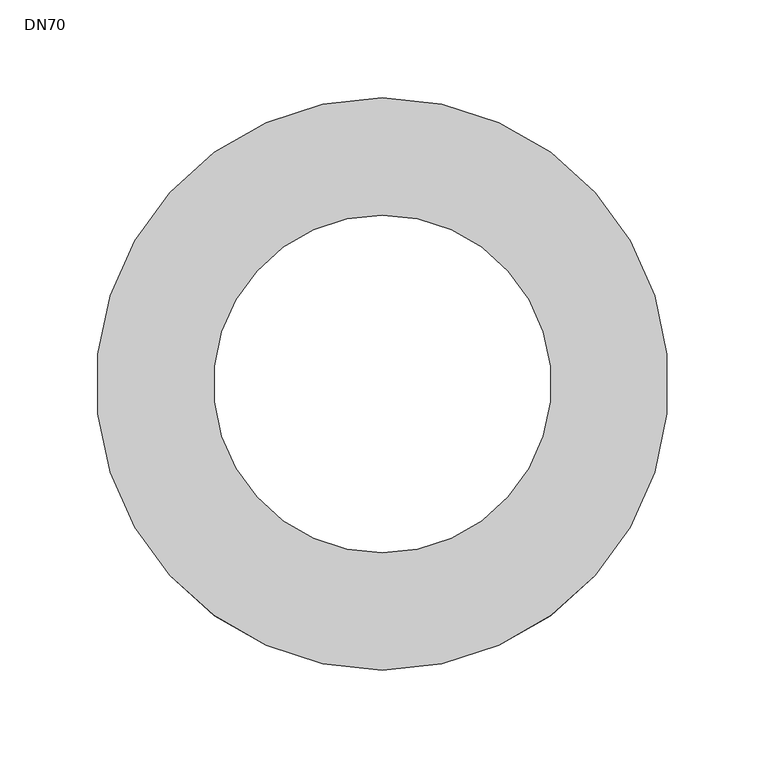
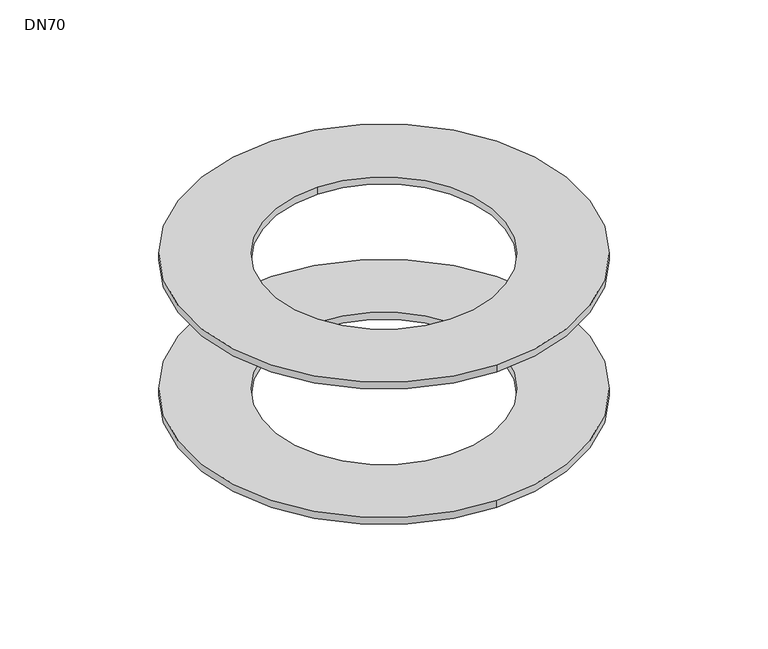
"""IFC4 building model written with IfcOpenShell, lengths in millimetres: sanitary terminal geometry, PF_GEN_spin configurable gully double body_ACO : DN70."""

from ifc_helpers import new_model, si_unit, point, frame, origin, origin_2d, place, context, project, spatial, circle_curve, trimmed, segment, composite_curve, outline, extrude, source, transform, mapped, element, save


def dn70_e7ab0a21(model_context):
    return source(origin(), model_context, "Body", "SweptSolid", [
        extrude(outline(composite_curve([segment(trimmed(circle_curve(origin_2d(), 146.25), [point((0.0, 146.25))], [point((0.0, -146.25))], False, "CARTESIAN"), True, "CONTINUOUS"), segment(trimmed(circle_curve(origin_2d(), 146.25), [point((0.0, -146.25))], [point((0.0, 146.25))], False, "CARTESIAN"), True, "CONTINUOUS")], self_intersect=False), holes=[composite_curve([segment(trimmed(circle_curve(origin_2d(), 86.25), [point((0.0, 86.25))], [point((0.0, -86.25))], True, "CARTESIAN"), True, "CONTINUOUS"), segment(trimmed(circle_curve(origin_2d(), 86.25), [point((0.0, -86.25))], [point((0.0, 86.25))], True, "CARTESIAN"), True, "CONTINUOUS")], self_intersect=False)]), frame((0.0, 0.0, 112.2630202), z_axis=(0.0, 0.0, 1.0), x_axis=(1.0, 0.0, 0.0)), (0.0, 0.0, 1.0), 5.5),
        extrude(outline(composite_curve([segment(trimmed(circle_curve(origin_2d(), 146.25), [point((0.0, -146.25))], [point((0.0, 146.25))], False, "CARTESIAN"), True, "CONTINUOUS"), segment(trimmed(circle_curve(origin_2d(), 146.25), [point((0.0, 146.25))], [point((0.0, -146.25))], False, "CARTESIAN"), True, "CONTINUOUS")], self_intersect=False), holes=[composite_curve([segment(trimmed(circle_curve(origin_2d(), 86.25), [point((0.0, -86.25))], [point((0.0, 86.25))], True, "CARTESIAN"), True, "CONTINUOUS"), segment(trimmed(circle_curve(origin_2d(), 86.25), [point((0.0, 86.25))], [point((0.0, -86.25))], True, "CARTESIAN"), True, "CONTINUOUS")], self_intersect=False)]), frame((0.0, 0.0, 5.0), z_axis=(0.0, 0.0, 1.0), x_axis=(1.0, 0.0, 0.0)), (0.0, 0.0, 1.0), 5.5),
    ])


if __name__ == "__main__":
    model = new_model("IFC4")
    model_context = context("Model", 3, world=origin())
    ifc_project = project(units=[si_unit("LENGTHUNIT", "METRE", prefix="MILLI")], contexts=[model_context])
    site = spatial("IfcSite", under=ifc_project)
    building = spatial("IfcBuilding", under=site)
    placement = place(None, origin())
    dn70_shape = dn70_e7ab0a21(model_context)
    element("IfcSanitaryTerminal", 1, ObjectType="PF_GEN_spin configurable gully double body_ACO : DN70", at=placement, inside=building, context=model_context, shape_type="MappedRepresentation", body=[
        mapped(dn70_shape, transform((0.0, 0.0, 0.0), x_axis=(1.0, 0.0, 0.0), y_axis=(0.0, 1.0, 0.0), z_axis=(0.0, 0.0, 1.0))),
    ])
    save(model, "model.ifc")
